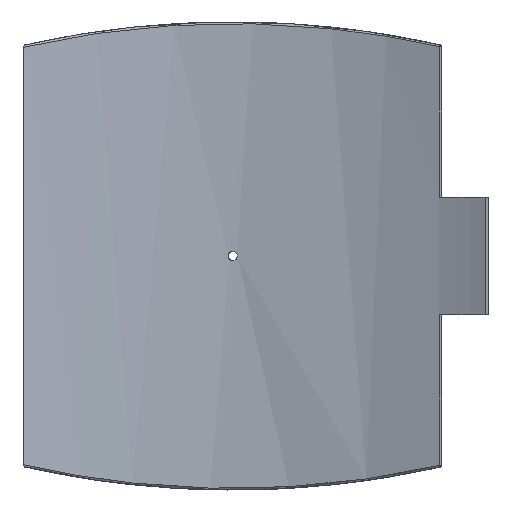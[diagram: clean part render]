
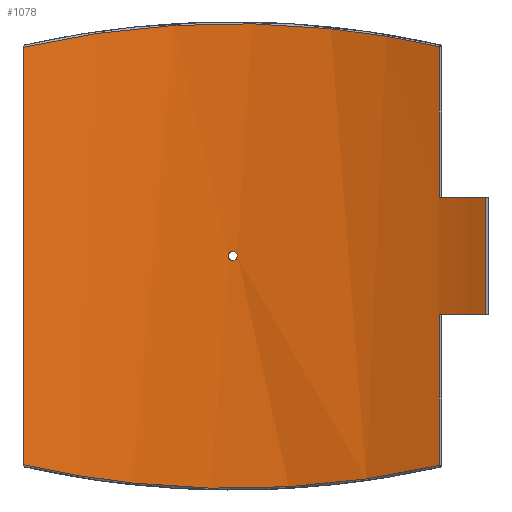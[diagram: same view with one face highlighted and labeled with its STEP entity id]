
A CAD part, front view. The second image highlights one B-rep face of the part: STEP entity #1078.
In plain terms, the highlighted cylindrical face has radius 600 mm (diameter 1200 mm), a partial arc.
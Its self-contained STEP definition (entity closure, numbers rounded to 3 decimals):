
#55=FACE_BOUND('',#355,.T.);
#109=B_SPLINE_CURVE_WITH_KNOTS('',3,(#2213,#2214,#2215,#2216,#2217,#2218,
#2219,#2220,#2221,#2222),.UNSPECIFIED.,.F.,.F.,(4,1,1,1,1,1,1,4),(-55.068,
-48.083,-41.098,-34.113,-30.621,
-20.144,-13.159,-6.174),.UNSPECIFIED.);
#110=B_SPLINE_CURVE_WITH_KNOTS('',3,(#2231,#2232,#2233,#2234,#2235,#2236,
#2237,#2238,#2239,#2240),.UNSPECIFIED.,.F.,.F.,(4,1,1,1,1,1,1,4),(-50.168,
-43.183,-36.198,-29.214,-22.229,-18.736,
-8.259,-1.275),.UNSPECIFIED.);
#111=B_SPLINE_CURVE_WITH_KNOTS('',3,(#2243,#2244,#2245,#2246,#2247,#2248,
#2249,#2250,#2251,#2252),.UNSPECIFIED.,.F.,.F.,(4,2,2,2,4),(0.,0.196,
0.392,0.588,0.784),.UNSPECIFIED.);
#112=B_SPLINE_CURVE_WITH_KNOTS('',3,(#2253,#2254,#2255,#2256,#2257,#2258,
#2259,#2260,#2261,#2262,#2263,#2264,#2265,#2266,#2267,#2268,#2269,#2270,
#2271,#2272,#2273,#2274,#2275,#2276,#2277,#2278),.UNSPECIFIED.,.F.,.F.,
(4,2,2,2,2,2,2,2,2,2,2,2,4),(0.784,0.979,1.175,
1.371,1.567,1.763,1.959,2.155,
2.351,2.546,2.742,2.938,3.134),
 .UNSPECIFIED.);
#133=LINE('',#1615,#184);
#144=LINE('',#1902,#195);
#151=LINE('',#2227,#202);
#152=LINE('',#2230,#203);
#184=VECTOR('',#1292,10.);
#195=VECTOR('',#1331,10.);
#202=VECTOR('',#1368,10.);
#203=VECTOR('',#1371,10.);
#244=CYLINDRICAL_SURFACE('',#1175,600.);
#288=FACE_OUTER_BOUND('',#354,.T.);
#354=EDGE_LOOP('',(#839,#840,#841,#842,#843,#844,#845,#846));
#355=EDGE_LOOP('',(#847,#848));
#449=CIRCLE('',#1176,600.);
#450=CIRCLE('',#1177,600.);
#510=VERTEX_POINT('',#1606);
#513=VERTEX_POINT('',#1613);
#533=VERTEX_POINT('',#1895);
#536=VERTEX_POINT('',#1900);
#549=VERTEX_POINT('',#2199);
#550=VERTEX_POINT('',#2224);
#551=VERTEX_POINT('',#2226);
#552=VERTEX_POINT('',#2229);
#553=VERTEX_POINT('',#2241);
#554=VERTEX_POINT('',#2242);
#613=EDGE_CURVE('',#513,#510,#133,.T.);
#643=EDGE_CURVE('',#536,#533,#144,.T.);
#666=EDGE_CURVE('',#549,#536,#109,.T.);
#667=EDGE_CURVE('',#550,#513,#449,.T.);
#668=EDGE_CURVE('',#550,#551,#151,.T.);
#669=EDGE_CURVE('',#533,#551,#450,.T.);
#670=EDGE_CURVE('',#552,#549,#152,.T.);
#671=EDGE_CURVE('',#510,#552,#110,.T.);
#672=EDGE_CURVE('',#553,#554,#111,.T.);
#673=EDGE_CURVE('',#554,#553,#112,.T.);
#839=ORIENTED_EDGE('',*,*,#667,.F.);
#840=ORIENTED_EDGE('',*,*,#668,.T.);
#841=ORIENTED_EDGE('',*,*,#669,.F.);
#842=ORIENTED_EDGE('',*,*,#643,.F.);
#843=ORIENTED_EDGE('',*,*,#666,.F.);
#844=ORIENTED_EDGE('',*,*,#670,.F.);
#845=ORIENTED_EDGE('',*,*,#671,.F.);
#846=ORIENTED_EDGE('',*,*,#613,.F.);
#847=ORIENTED_EDGE('',*,*,#672,.T.);
#848=ORIENTED_EDGE('',*,*,#673,.T.);
#1078=ADVANCED_FACE('',(#288,#55),#244,.F.);
#1175=AXIS2_PLACEMENT_3D('',#2223,#1364,#1365);
#1176=AXIS2_PLACEMENT_3D('',#2225,#1366,#1367);
#1177=AXIS2_PLACEMENT_3D('',#2228,#1369,#1370);
#1292=DIRECTION('',(0.,0.,-1.));
#1331=DIRECTION('',(0.,0.,-1.));
#1364=DIRECTION('center_axis',(0.,0.,1.));
#1365=DIRECTION('ref_axis',(-1.,0.,0.));
#1366=DIRECTION('center_axis',(0.,0.,1.));
#1367=DIRECTION('ref_axis',(-0.476,-0.88,0.));
#1368=DIRECTION('',(0.,0.,1.));
#1369=DIRECTION('center_axis',(0.,0.,-1.));
#1370=DIRECTION('ref_axis',(-0.476,-0.88,0.));
#1371=DIRECTION('',(0.,0.,1.));
#1606=CARTESIAN_POINT('',(233.92,552.523,-236.902));
#1613=CARTESIAN_POINT('',(233.92,552.523,-66.25));
#1615=CARTESIAN_POINT('',(233.92,552.523,0.));
#1895=CARTESIAN_POINT('',(233.92,552.523,66.25));
#1900=CARTESIAN_POINT('',(233.92,552.523,236.902));
#1902=CARTESIAN_POINT('',(233.92,552.523,0.));
#2199=CARTESIAN_POINT('',(-236.7,551.338,236.27));
#2213=CARTESIAN_POINT('Ctrl Pts',(-236.7,551.338,236.27));
#2214=CARTESIAN_POINT('Ctrl Pts',(-215.832,560.297,241.043));
#2215=CARTESIAN_POINT('Ctrl Pts',(-172.866,575.932,249.538));
#2216=CARTESIAN_POINT('Ctrl Pts',(-105.57,591.999,258.483));
#2217=CARTESIAN_POINT('Ctrl Pts',(-47.951,598.867,262.358));
#2218=CARTESIAN_POINT('Ctrl Pts',(21.657,601.073,263.61));
#2219=CARTESIAN_POINT('Ctrl Pts',(91.294,595.161,260.25));
#2220=CARTESIAN_POINT('Ctrl Pts',(169.935,576.802,250.018));
#2221=CARTESIAN_POINT('Ctrl Pts',(212.994,561.382,241.629));
#2222=CARTESIAN_POINT('Ctrl Pts',(233.92,552.523,236.902));
#2223=CARTESIAN_POINT('Origin',(0.,0.,0.));
#2224=CARTESIAN_POINT('',(285.527,527.707,-66.25));
#2225=CARTESIAN_POINT('Origin',(0.,0.,
-66.25));
#2226=CARTESIAN_POINT('',(285.527,527.707,66.25));
#2227=CARTESIAN_POINT('',(285.527,527.707,0.));
#2228=CARTESIAN_POINT('Origin',(0.,0.,
66.25));
#2229=CARTESIAN_POINT('',(-236.7,551.338,-236.27));
#2230=CARTESIAN_POINT('',(-236.7,551.338,0.));
#2231=CARTESIAN_POINT('Ctrl Pts',(233.92,552.523,-236.902));
#2232=CARTESIAN_POINT('Ctrl Pts',(212.994,561.382,-241.629));
#2233=CARTESIAN_POINT('Ctrl Pts',(169.934,576.806,-250.021));
#2234=CARTESIAN_POINT('Ctrl Pts',(102.529,592.533,-258.782));
#2235=CARTESIAN_POINT('Ctrl Pts',(33.335,600.425,-263.241));
#2236=CARTESIAN_POINT('Ctrl Pts',(-24.797,600.272,-263.152));
#2237=CARTESIAN_POINT('Ctrl Pts',(-94.105,594.05,-259.644));
#2238=CARTESIAN_POINT('Ctrl Pts',(-162.131,579.847,-251.67));
#2239=CARTESIAN_POINT('Ctrl Pts',(-215.832,560.297,-241.043));
#2240=CARTESIAN_POINT('Ctrl Pts',(-236.7,551.338,-236.27));
#2241=CARTESIAN_POINT('',(5.2,599.977,0.));
#2242=CARTESIAN_POINT('',(0.,600.,-5.2));
#2243=CARTESIAN_POINT('Ctrl Pts',(5.2,599.977,0.));
#2244=CARTESIAN_POINT('Ctrl Pts',(5.2,599.977,-0.653));
#2245=CARTESIAN_POINT('Ctrl Pts',(5.07,599.979,-1.349));
#2246=CARTESIAN_POINT('Ctrl Pts',(4.539,599.983,-2.631));
#2247=CARTESIAN_POINT('Ctrl Pts',(4.139,599.986,-3.215));
#2248=CARTESIAN_POINT('Ctrl Pts',(3.215,599.992,-4.139));
#2249=CARTESIAN_POINT('Ctrl Pts',(2.631,599.995,-4.539));
#2250=CARTESIAN_POINT('Ctrl Pts',(1.349,599.999,-5.07));
#2251=CARTESIAN_POINT('Ctrl Pts',(0.653,600.,-5.2));
#2252=CARTESIAN_POINT('Ctrl Pts',(0.,600.,-5.2));
#2253=CARTESIAN_POINT('Ctrl Pts',(0.,600.,-5.2));
#2254=CARTESIAN_POINT('Ctrl Pts',(-0.653,600.,-5.2));
#2255=CARTESIAN_POINT('Ctrl Pts',(-1.349,599.999,-5.07));
#2256=CARTESIAN_POINT('Ctrl Pts',(-2.631,599.995,-4.539));
#2257=CARTESIAN_POINT('Ctrl Pts',(-3.215,599.992,-4.139));
#2258=CARTESIAN_POINT('Ctrl Pts',(-4.139,599.986,-3.215));
#2259=CARTESIAN_POINT('Ctrl Pts',(-4.539,599.983,-2.631));
#2260=CARTESIAN_POINT('Ctrl Pts',(-5.07,599.979,-1.349));
#2261=CARTESIAN_POINT('Ctrl Pts',(-5.2,599.977,-0.653));
#2262=CARTESIAN_POINT('Ctrl Pts',(-5.2,599.977,0.653));
#2263=CARTESIAN_POINT('Ctrl Pts',(-5.07,599.979,1.349));
#2264=CARTESIAN_POINT('Ctrl Pts',(-4.539,599.983,2.631));
#2265=CARTESIAN_POINT('Ctrl Pts',(-4.139,599.986,3.215));
#2266=CARTESIAN_POINT('Ctrl Pts',(-3.215,599.992,4.139));
#2267=CARTESIAN_POINT('Ctrl Pts',(-2.631,599.995,4.539));
#2268=CARTESIAN_POINT('Ctrl Pts',(-1.349,599.999,5.07));
#2269=CARTESIAN_POINT('Ctrl Pts',(-0.653,600.,5.2));
#2270=CARTESIAN_POINT('Ctrl Pts',(0.653,600.,5.2));
#2271=CARTESIAN_POINT('Ctrl Pts',(1.349,599.999,5.07));
#2272=CARTESIAN_POINT('Ctrl Pts',(2.631,599.995,4.539));
#2273=CARTESIAN_POINT('Ctrl Pts',(3.215,599.992,4.139));
#2274=CARTESIAN_POINT('Ctrl Pts',(4.139,599.986,3.215));
#2275=CARTESIAN_POINT('Ctrl Pts',(4.539,599.983,2.631));
#2276=CARTESIAN_POINT('Ctrl Pts',(5.07,599.979,1.349));
#2277=CARTESIAN_POINT('Ctrl Pts',(5.2,599.977,0.653));
#2278=CARTESIAN_POINT('Ctrl Pts',(5.2,599.977,0.));
